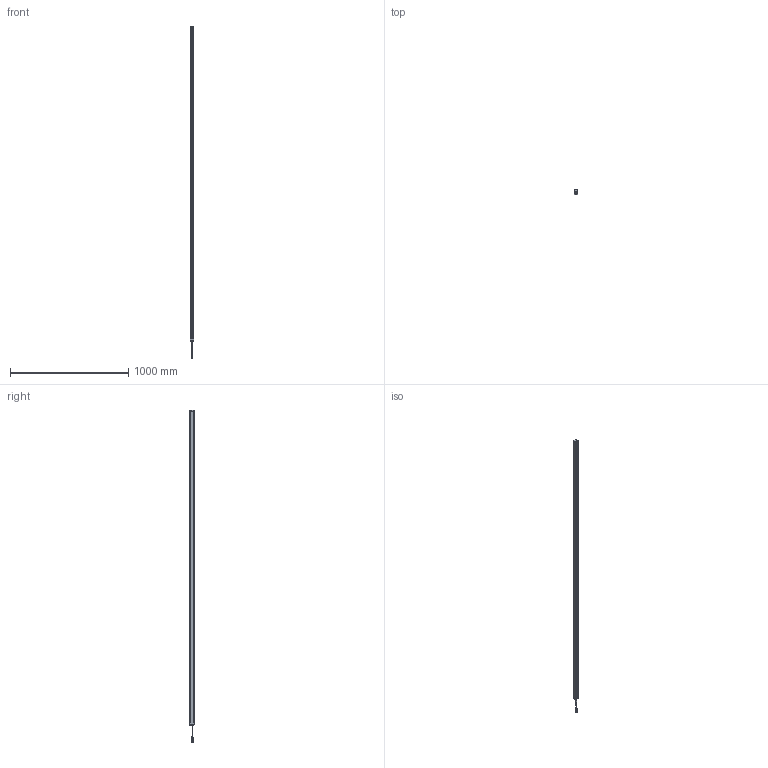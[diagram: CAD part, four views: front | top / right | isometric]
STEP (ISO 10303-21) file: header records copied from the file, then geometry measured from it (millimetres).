
FILE_DESCRIPTION((''),'2;1');
FILE_NAME('PRT0002','2026-04-01T15:49:46',('Administrator'),(''),'CREO PARAMETRIC BY PTC INC, 2016510','CREO PARAMETRIC BY PTC INC, 2016510','');
FILE_SCHEMA(('AUTOMOTIVE_DESIGN { 1 0 10303 214 1 1 1 1 }'));
Length unit declared in the file: millimetre
Products named in the file (1): PRT0002
Bounding box: 33 x 38 x 2801.9 mm (x, y, z)
Surface area: 567023.8 mm2 (no closed solid volume)
Topology: 0 solids, 12 shells, 622 faces, 1746 edges, 1146 vertices
Faces by surface type: plane 301, cylinder 225, torus 32, sphere 32, cone 28, bspline 4
Entity records: 25207 total; most frequent: CARTESIAN_POINT 4764, ORIENTED_EDGE 3408, DIRECTION 3347, EDGE_CURVE 1704, AXIS2_PLACEMENT_3D 1220, VERTEX_POINT 1146, VECTOR 907, LINE 907
